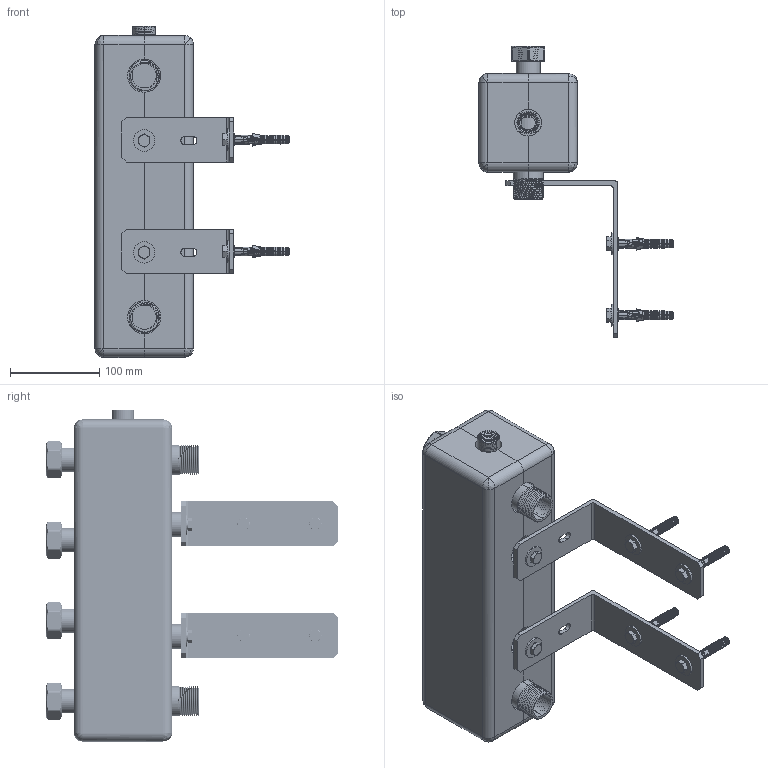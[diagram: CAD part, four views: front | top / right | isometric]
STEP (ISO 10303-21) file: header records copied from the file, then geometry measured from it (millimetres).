
FILE_DESCRIPTION (( 'STEP AP214' ), '1' );
FILE_NAME ('KSV_90_2_HV_Rozdzielacz_ze_sprzeglem_hydraulicznym_dla_2_obiegów_pompowych_9023200_0_3D_AFRISO.STEP', '2024-02-06T09:03:54', ( '' ), ( '' ), 'SwSTEP 2.0', 'SolidWorks 2022', '' );
FILE_SCHEMA (( 'AUTOMOTIVE_DESIGN' ));
Length unit declared in the file: millimetre
Products named in the file (23): GUMA_NOSILCA_M8; 08_001_033_SESTAVLJEN_ASM; 08_018_005; DIN9021-8; 08_001_033; SCREW_DIN_933-M8X25-8_8-A; 08_024_003; 08_001_054; 08_016_008; 08_013_014; 08_018_013_AF1; DIN571_8X60_CUZN; ZIDNI_VLOZEK_10; 08_024_011; KSV_90_2_HV_Rozdzielacz_ze_sprzeglem_hydraulicznym_dla_2_obiegów_pompowych_9023200_0_3D_AFRISO; 08_018_003; 08_018_013_AF0; 08_018_007; 08_024_010; 08_024_006; 08_024_002; 08_024_200_IZOLACIJA_ASM; 08_024_001
Assembly tree (40 placements, depth 3):
  KSV_90_2_HV_Rozdzielacz_ze_sprzeglem_hydraulicznym_dla_2_obiegów_pompowych_9023200_0_3D_AFRISO
    08_024_001
    08_024_002
    08_024_003
    08_024_006
    08_013_014  x2
    08_024_010
    08_016_008
    08_018_003  x2
    08_024_011  x2
    08_018_007  x4
    08_018_005  x4
    08_024_200_IZOLACIJA_ASM
      08_018_013_AF0
      08_018_013_AF1
    08_001_033_SESTAVLJEN_ASM  x2
      08_001_033
      DIN9021-8
      SCREW_DIN_933-M8X25-8_8-A
      GUMA_NOSILCA_M8
      DIN571_8X60_CUZN
      ZIDNI_VLOZEK_10
    08_001_054  x5
Bounding box: 216.91 x 325.5 x 370 mm (x, y, z)
Volume: 3495407 mm3; surface area: 793558.3 mm2
Topology: 43 solids, 51 shells, 3933 faces, 11216 edges, 7377 vertices
Faces by surface type: cylinder 1779, plane 1122, cone 826, bspline 206
Entity records: 68487 total; most frequent: CARTESIAN_POINT 27044, ORIENTED_EDGE 7592, DIRECTION 6918, EDGE_CURVE 3798, AXIS2_PLACEMENT_3D 2710, VERTEX_POINT 2499, LINE 1498, VECTOR 1498
